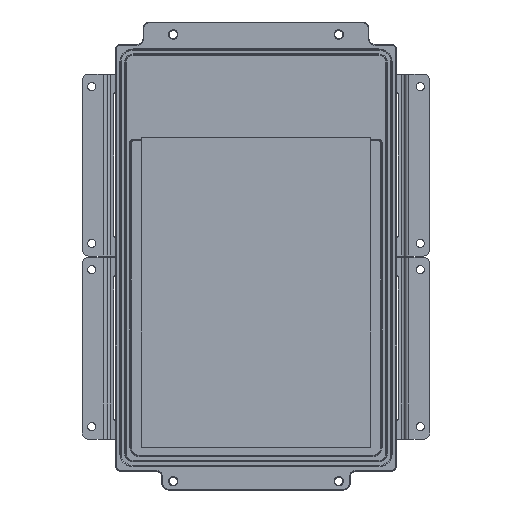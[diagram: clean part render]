
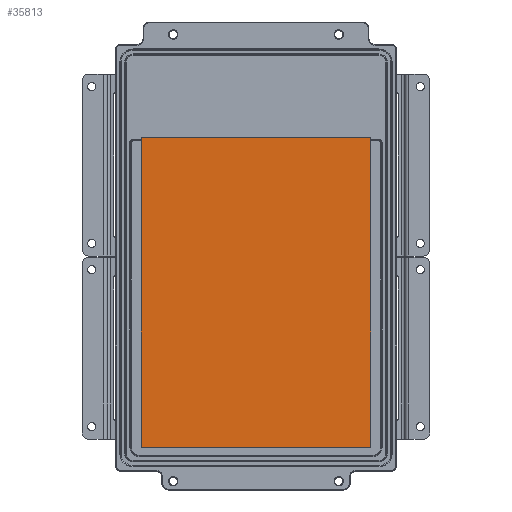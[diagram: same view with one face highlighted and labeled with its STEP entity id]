
A CAD part, front view. The second image highlights one B-rep face of the part: STEP entity #35813.
In plain terms, the highlighted planar face has unit normal (0, -1, 0).
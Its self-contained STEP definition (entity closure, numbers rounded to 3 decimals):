
#7273 = VERTEX_POINT ( 'NONE', #43140 ) ;
#13411 = VERTEX_POINT ( 'NONE', #68350 ) ;
#14233 = CARTESIAN_POINT ( 'NONE',  ( -89.5, -29.5, -151. ) ) ;
#18702 = CARTESIAN_POINT ( 'NONE',  ( -89.5, -29.5, -151. ) ) ;
#22861 = PLANE ( 'NONE',  #96530 ) ;
#31001 = CARTESIAN_POINT ( 'NONE',  ( -89.5, -29.5, 96. ) ) ;
#32618 = VECTOR ( 'NONE', #63207, 1000. ) ;
#34679 = DIRECTION ( 'NONE',  ( 0., 0., 1. ) ) ;
#35813 = ADVANCED_FACE ( 'NONE', ( #106242 ), #22861, .F. ) ;
#37420 = EDGE_CURVE ( 'NONE', #13411, #7273, #45043, .T. ) ;
#42271 = CARTESIAN_POINT ( 'NONE',  ( 93.5, -29.5, -151. ) ) ;
#42496 = EDGE_CURVE ( 'NONE', #42769, #60411, #76623, .T. ) ;
#42730 = ORIENTED_EDGE ( 'NONE', *, *, #37420, .T. ) ;
#42769 = VERTEX_POINT ( 'NONE', #14233 ) ;
#43140 = CARTESIAN_POINT ( 'NONE',  ( 93.5, -29.5, 96. ) ) ;
#45043 = LINE ( 'NONE', #51163, #32618 ) ;
#50589 = LINE ( 'NONE', #42271, #53692 ) ;
#51078 = ORIENTED_EDGE ( 'NONE', *, *, #65229, .F. ) ;
#51163 = CARTESIAN_POINT ( 'NONE',  ( 93.5, -29.5, -151. ) ) ;
#53692 = VECTOR ( 'NONE', #59381, 1000. ) ;
#57042 = CARTESIAN_POINT ( 'NONE',  ( 93.5, -29.5, -151. ) ) ;
#59381 = DIRECTION ( 'NONE',  ( -1., 0., 0. ) ) ;
#60411 = VERTEX_POINT ( 'NONE', #74419 ) ;
#60841 = EDGE_CURVE ( 'NONE', #13411, #42769, #50589, .T. ) ;
#63207 = DIRECTION ( 'NONE',  ( 0., 0., 1. ) ) ;
#65229 = EDGE_CURVE ( 'NONE', #60411, #7273, #95753, .T. ) ;
#68350 = CARTESIAN_POINT ( 'NONE',  ( 93.5, -29.5, -151. ) ) ;
#70346 = DIRECTION ( 'NONE',  ( 1., 0., 0. ) ) ;
#71391 = ORIENTED_EDGE ( 'NONE', *, *, #42496, .F. ) ;
#74419 = CARTESIAN_POINT ( 'NONE',  ( -89.5, -29.5, 96. ) ) ;
#76623 = LINE ( 'NONE', #18702, #92812 ) ;
#84925 = ORIENTED_EDGE ( 'NONE', *, *, #60841, .F. ) ;
#89119 = DIRECTION ( 'NONE',  ( 0., 0., -1. ) ) ;
#90744 = DIRECTION ( 'NONE',  ( 0., 1., 0. ) ) ;
#91382 = VECTOR ( 'NONE', #70346, 1000. ) ;
#92812 = VECTOR ( 'NONE', #34679, 1000. ) ;
#95753 = LINE ( 'NONE', #31001, #91382 ) ;
#96530 = AXIS2_PLACEMENT_3D ( 'NONE', #57042, #90744, #89119 ) ;
#101189 = EDGE_LOOP ( 'NONE', ( #42730, #51078, #71391, #84925 ) ) ;
#106242 = FACE_OUTER_BOUND ( 'NONE', #101189, .T. ) ;
